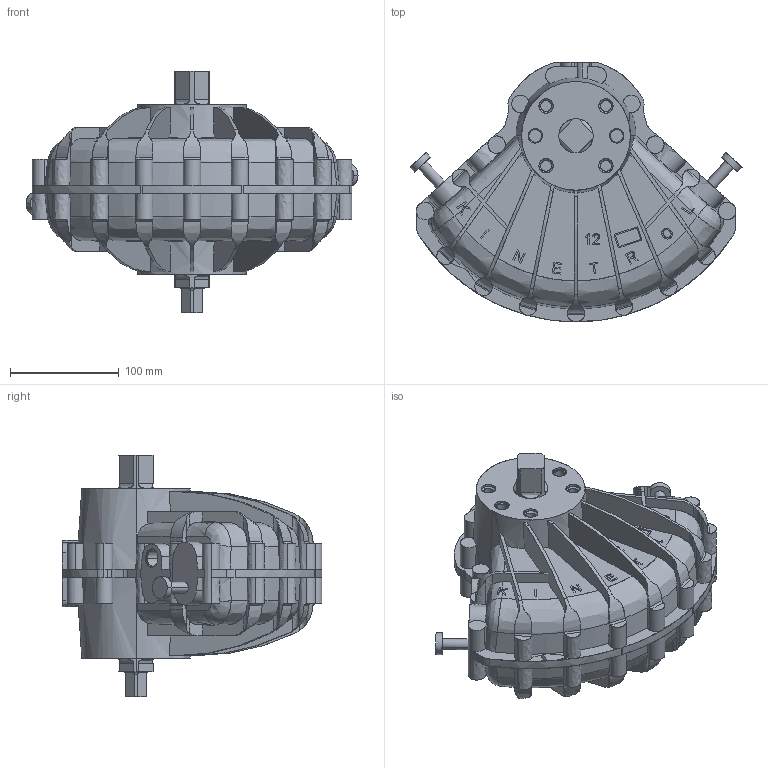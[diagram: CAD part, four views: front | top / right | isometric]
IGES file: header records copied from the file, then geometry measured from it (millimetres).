
Start section: Comment
Global section: file name: 124-100 IGES.igs; native system:  By UGS Corp.; preprocessor: XPlus GENERIC/IGES 3.0; author: Author; organization: Title; date: 20090223.130717; units: millimetre
Bounding box: 305.49 x 239 x 222.5 mm (x, y, z)
Surface area: 283509.6 mm2 (no closed solid volume)
Topology: 0 solids, 0 shells, 939 faces, 5158 edges, 5150 vertices
Faces by surface type: bspline 939
